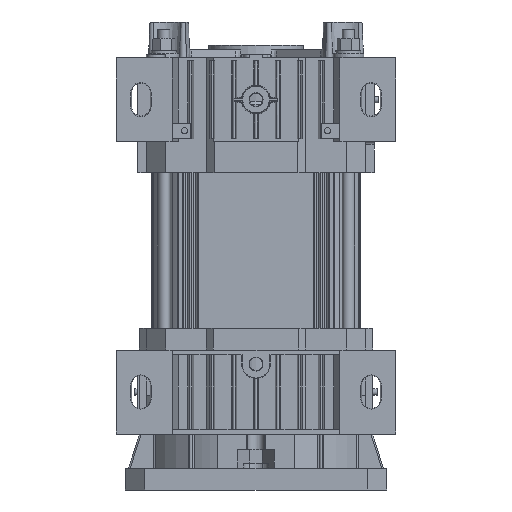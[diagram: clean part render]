
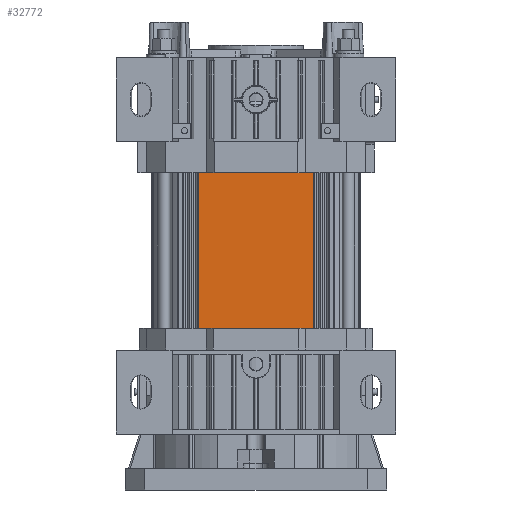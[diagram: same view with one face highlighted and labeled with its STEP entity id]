
A CAD part, front view. The second image highlights one B-rep face of the part: STEP entity #32772.
In plain terms, the highlighted planar face has unit normal (0, -1, 0).
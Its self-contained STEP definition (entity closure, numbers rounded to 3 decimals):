
#3594=LINE('',#57896,#6556);
#3830=LINE('',#58639,#6792);
#3831=LINE('',#58642,#6793);
#3832=LINE('',#58643,#6794);
#6556=VECTOR('',#44779,10.);
#6792=VECTOR('',#45533,10.);
#6793=VECTOR('',#45538,10.);
#6794=VECTOR('',#45539,10.);
#7785=PLANE('',#36113);
#9717=FACE_OUTER_BOUND('',#11658,.T.);
#11658=EDGE_LOOP('',(#30254,#30255,#30256,#30257));
#15998=VERTEX_POINT('',#57889);
#16001=VERTEX_POINT('',#57894);
#16248=VERTEX_POINT('',#58636);
#16249=VERTEX_POINT('',#58638);
#20639=EDGE_CURVE('',#16001,#15998,#3594,.T.);
#21010=EDGE_CURVE('',#16249,#16248,#3830,.T.);
#21012=EDGE_CURVE('',#16248,#15998,#3831,.T.);
#21013=EDGE_CURVE('',#16001,#16249,#3832,.T.);
#30254=ORIENTED_EDGE('',*,*,#21012,.T.);
#30255=ORIENTED_EDGE('',*,*,#20639,.F.);
#30256=ORIENTED_EDGE('',*,*,#21013,.T.);
#30257=ORIENTED_EDGE('',*,*,#21010,.T.);
#32772=ADVANCED_FACE('',(#9717),#7785,.T.);
#36113=AXIS2_PLACEMENT_3D('',#58641,#45536,#45537);
#44779=DIRECTION('',(0.,0.,1.));
#45533=DIRECTION('',(0.,0.,1.));
#45536=DIRECTION('center_axis',(0.,-1.,0.));
#45537=DIRECTION('ref_axis',(0.,0.,-1.));
#45538=DIRECTION('',(-1.,0.,0.));
#45539=DIRECTION('',(1.,0.,0.));
#57889=CARTESIAN_POINT('',(6506.45,-1976.3,110.));
#57894=CARTESIAN_POINT('',(6506.45,-1976.3,0.));
#57896=CARTESIAN_POINT('',(6506.45,-1976.3,0.));
#58636=CARTESIAN_POINT('',(6580.572,-1976.3,110.));
#58638=CARTESIAN_POINT('',(6580.572,-1976.3,0.));
#58639=CARTESIAN_POINT('',(6580.572,-1976.3,0.));
#58641=CARTESIAN_POINT('Origin',(6580.572,-1976.3,0.));
#58642=CARTESIAN_POINT('',(6506.45,-1976.3,110.));
#58643=CARTESIAN_POINT('',(6506.45,-1976.3,0.));
